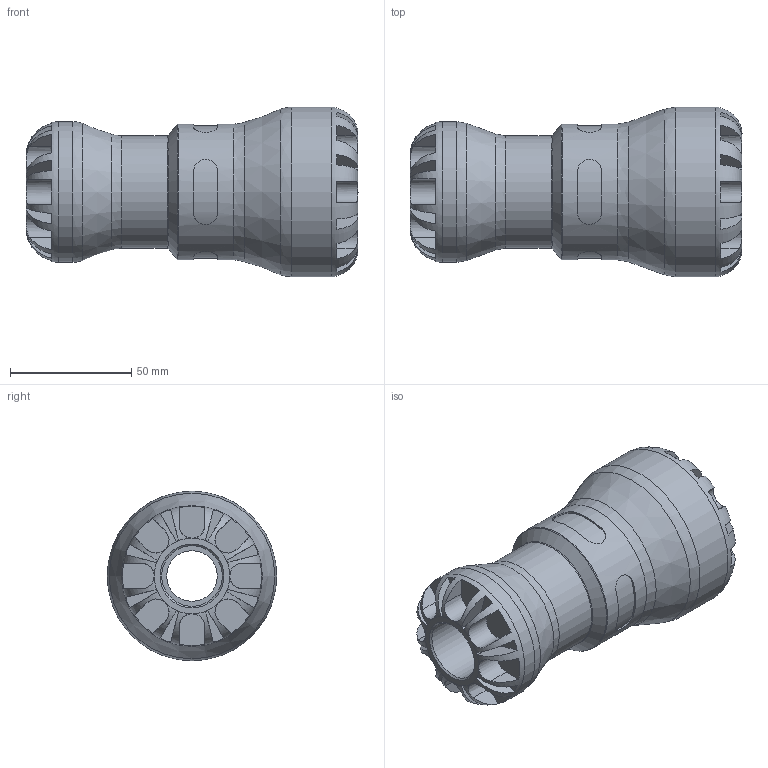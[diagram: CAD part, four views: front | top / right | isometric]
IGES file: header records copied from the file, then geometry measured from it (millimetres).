
Global section: file name: 101100040025_191100040025.ipt; native system: Autodesk Inventor 2015; preprocessor: unknown; author: KIM; date: 20190627.094237; units: millimetre
Bounding box: 137 x 70 x 70 mm (x, y, z)
Volume: 221216.9 mm3; surface area: 48805.1 mm2
Topology: 1 solids, 1 shells, 172 faces, 451 edges, 286 vertices
Faces by surface type: plane 108, revolution 37, cylinder 24, cone 3
Full cylindrical faces by diameter (mm): 46.4 x1, 56 x1, 58 x1, 70 x1
